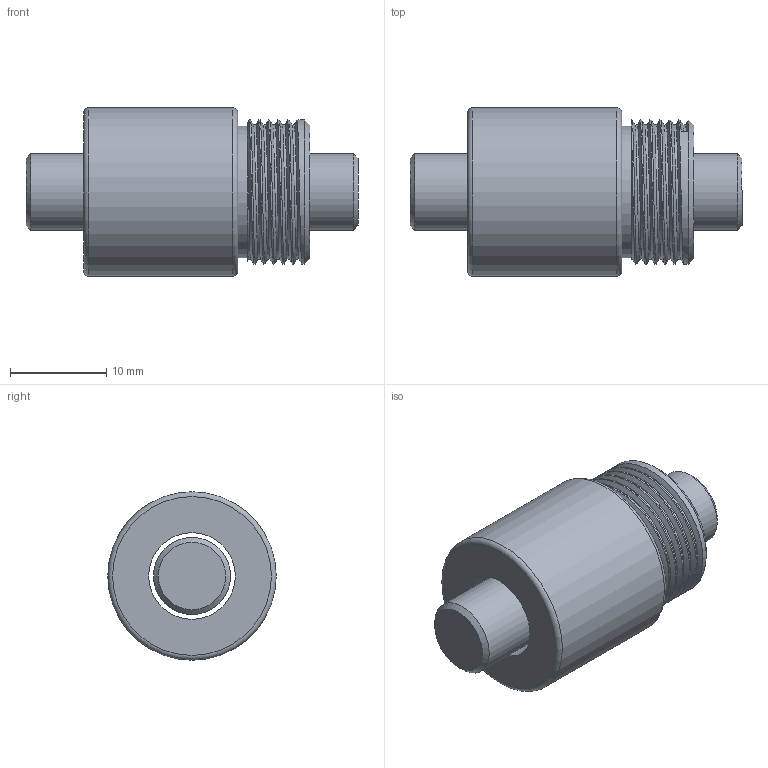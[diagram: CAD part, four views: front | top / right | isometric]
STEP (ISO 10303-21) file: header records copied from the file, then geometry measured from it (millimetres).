
FILE_DESCRIPTION(/* description */ (''),/* implementation_level */ '2;1');
FILE_NAME(/* name */ 'BSH082.5',/* time_stamp */ '2007-10-26T08:31:26+08:00',/* author */ (''),/* organization */ (''),/* preprocessor_version */ 'ST-DEVELOPER v9',/* originating_system */ 'UGS - NX 3.0',/* authorisation */ '');
FILE_SCHEMA (('CONFIG_CONTROL_DESIGN'));
Length unit declared in the file: millimetre
Products named in the file (1): jaso3916htbm
Bounding box: 34.5 x 17.5 x 17.5 mm (x, y, z)
Volume: 5273.4 mm3; surface area: 3334.1 mm2
Topology: 2 solids, 2 shells, 20 faces, 38 edges, 24 vertices
Faces by surface type: plane 7, cylinder 6, cone 3, torus 2, bspline 2
Full cylindrical faces by diameter (mm): 8 x1, 9 x1, 13.7 x1, 17.5 x1
Entity records: 1165 total; most frequent: CARTESIAN_POINT 721, DIRECTION 73, ORIENTED_EDGE 56, AXIS2_PLACEMENT_3D 35, EDGE_LOOP 33, EDGE_CURVE 28, VERTEX_POINT 23, ADVANCED_FACE 20
